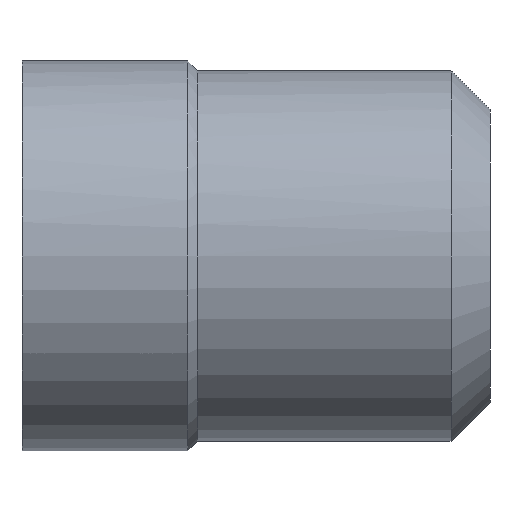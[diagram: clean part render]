
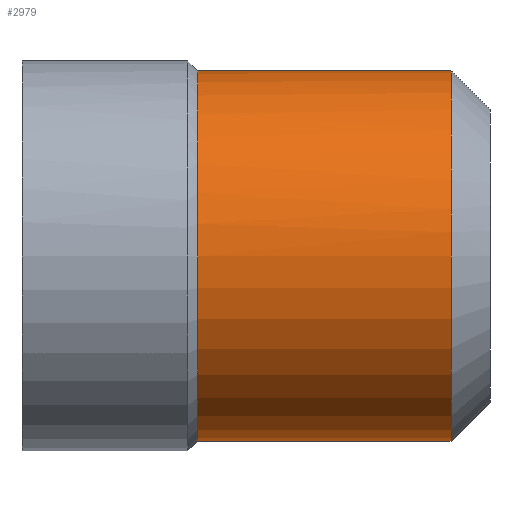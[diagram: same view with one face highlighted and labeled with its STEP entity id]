
A CAD part, front view. The second image highlights one B-rep face of the part: STEP entity #2979.
In plain terms, the highlighted cylindrical face has radius 4.75 mm (diameter 9.5 mm), a partial arc.
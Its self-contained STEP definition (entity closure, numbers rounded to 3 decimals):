
#2636=CARTESIAN_POINT('Vertex',(4.5,0.,4.75)) ;
#2650=CARTESIAN_POINT('Vertex',(4.5,0.,-4.75)) ;
#2672=CARTESIAN_POINT('Axis2P3D Location',(4.5,0.,0.)) ;
#2676=CARTESIAN_POINT('Vertex',(4.5,-4.75,0.)) ;
#2679=CARTESIAN_POINT('Axis2P3D Location',(4.5,0.,0.)) ;
#2913=CARTESIAN_POINT('Line Origine',(4.564,0.,-4.75)) ;
#2917=CARTESIAN_POINT('Vertex',(11.,0.,-4.75)) ;
#2920=CARTESIAN_POINT('Line Origine',(4.564,0.,4.75)) ;
#2924=CARTESIAN_POINT('Vertex',(11.,0.,4.75)) ;
#2951=CARTESIAN_POINT('Axis2P3D Location',(4.564,0.,0.)) ;
#2956=CARTESIAN_POINT('Axis2P3D Location',(11.,0.,0.)) ;
#2960=CARTESIAN_POINT('Vertex',(11.,-4.75,0.)) ;
#2964=CARTESIAN_POINT('Control Point',(11.,0.,4.75)) ;
#2965=CARTESIAN_POINT('Control Point',(11.,-1.492,4.75)) ;
#2966=CARTESIAN_POINT('Control Point',(11.,-2.986,4.166)) ;
#2967=CARTESIAN_POINT('Control Point',(11.,-4.166,2.986)) ;
#2968=CARTESIAN_POINT('Control Point',(11.,-4.75,1.492)) ;
#2969=CARTESIAN_POINT('Control Point',(11.,-4.75,0.)) ;
#2673=DIRECTION('Axis2P3D Direction',(-1.,0.,0.)) ;
#2680=DIRECTION('Axis2P3D Direction',(-1.,0.,0.)) ;
#2914=DIRECTION('Vector Direction',(-1.,0.,0.)) ;
#2921=DIRECTION('Vector Direction',(-1.,0.,0.)) ;
#2952=DIRECTION('Axis2P3D Direction',(-1.,-0.,-0.)) ;
#2953=DIRECTION('Axis2P3D XDirection',(0.,0.,-1.)) ;
#2957=DIRECTION('Axis2P3D Direction',(-1.,-0.,-0.)) ;
#2674=AXIS2_PLACEMENT_3D('Circle Axis2P3D',#2672,#2673,$) ;
#2681=AXIS2_PLACEMENT_3D('Circle Axis2P3D',#2679,#2680,$) ;
#2954=AXIS2_PLACEMENT_3D('Cylinder Axis2P3D',#2951,#2952,#2953) ;
#2958=AXIS2_PLACEMENT_3D('Circle Axis2P3D',#2956,#2957,$) ;
#2972=ORIENTED_EDGE('',*,*,#2926,.T.) ;
#2973=ORIENTED_EDGE('',*,*,#2683,.T.) ;
#2974=ORIENTED_EDGE('',*,*,#2678,.T.) ;
#2975=ORIENTED_EDGE('',*,*,#2919,.T.) ;
#2976=ORIENTED_EDGE('',*,*,#2962,.F.) ;
#2977=ORIENTED_EDGE('',*,*,#2970,.F.) ;
#2915=VECTOR('Line Direction',#2914,1.) ;
#2922=VECTOR('Line Direction',#2921,1.) ;
#2979=ADVANCED_FACE('MABS10',(#2978),#2955,.T.) ;
#2963=B_SPLINE_CURVE_WITH_KNOTS('',5,(#2964,#2965,#2966,#2967,#2968,#2969),.UNSPECIFIED.,.F.,.U.,(6,6),(-3.731,3.731),.UNSPECIFIED.) ;
#2675=CIRCLE('generated circle',#2674,4.75) ;
#2682=CIRCLE('generated circle',#2681,4.75) ;
#2959=CIRCLE('generated circle',#2958,4.75) ;
#2955=CYLINDRICAL_SURFACE('generated cylinder',#2954,4.75) ;
#2678=EDGE_CURVE('',#2677,#2651,#2675,.F.) ;
#2683=EDGE_CURVE('',#2637,#2677,#2682,.F.) ;
#2919=EDGE_CURVE('',#2651,#2918,#2916,.F.) ;
#2926=EDGE_CURVE('',#2925,#2637,#2923,.T.) ;
#2962=EDGE_CURVE('',#2961,#2918,#2959,.F.) ;
#2970=EDGE_CURVE('',#2925,#2961,#2963,.T.) ;
#2971=EDGE_LOOP('',(#2972,#2973,#2974,#2975,#2976,#2977)) ;
#2978=FACE_OUTER_BOUND('',#2971,.T.) ;
#2916=LINE('Line',#2913,#2915) ;
#2923=LINE('Line',#2920,#2922) ;
#2637=VERTEX_POINT('',#2636) ;
#2651=VERTEX_POINT('',#2650) ;
#2677=VERTEX_POINT('',#2676) ;
#2918=VERTEX_POINT('',#2917) ;
#2925=VERTEX_POINT('',#2924) ;
#2961=VERTEX_POINT('',#2960) ;
